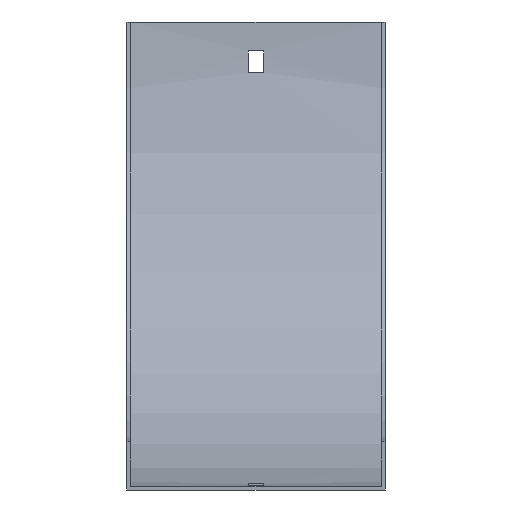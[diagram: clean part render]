
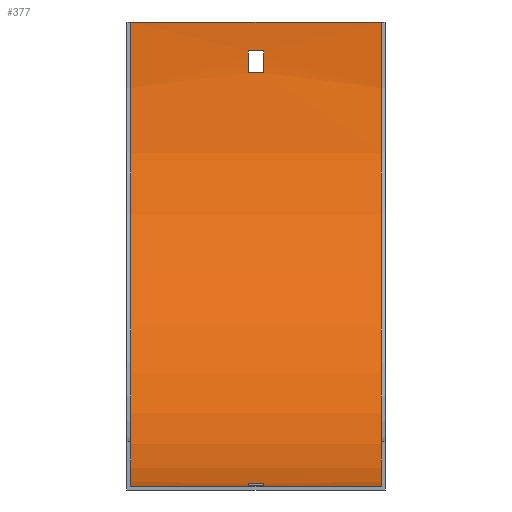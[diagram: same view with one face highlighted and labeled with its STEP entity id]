
A CAD part, front view. The second image highlights one B-rep face of the part: STEP entity #377.
In plain terms, the highlighted cylindrical face has radius 192.5 mm (diameter 385 mm), a partial arc.
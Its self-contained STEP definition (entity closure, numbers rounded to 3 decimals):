
#1 = DIRECTION ( 'NONE',  ( -1., 0., 0. ) ) ;
#2 = CARTESIAN_POINT ( 'NONE',  ( 3.25, -1.874, -12. ) ) ;
#19 = CARTESIAN_POINT ( 'NONE',  ( -52., -194., -192.5 ) ) ;
#20 = VERTEX_POINT ( 'NONE', #39 ) ;
#21 = EDGE_CURVE ( 'NONE', #570, #357, #551, .T. ) ;
#23 = ORIENTED_EDGE ( 'NONE', *, *, #587, .F. ) ;
#29 = CARTESIAN_POINT ( 'NONE',  ( 53.5, -2.649, -21. ) ) ;
#39 = CARTESIAN_POINT ( 'NONE',  ( 3.25, -173., -191.351 ) ) ;
#43 = EDGE_CURVE ( 'NONE', #292, #570, #411, .T. ) ;
#55 = LINE ( 'NONE', #29, #58 ) ;
#58 = VECTOR ( 'NONE', #404, 1000. ) ;
#61 = DIRECTION ( 'NONE',  ( 1., 0., 0. ) ) ;
#65 = DIRECTION ( 'NONE',  ( 1., 0., 0. ) ) ;
#66 = ORIENTED_EDGE ( 'NONE', *, *, #21, .T. ) ;
#67 = CARTESIAN_POINT ( 'NONE',  ( 52., -1.5, 0. ) ) ;
#68 = CARTESIAN_POINT ( 'NONE',  ( 3.25, -182., -192.126 ) ) ;
#76 = DIRECTION ( 'NONE',  ( 0., 0., 1. ) ) ;
#77 = VERTEX_POINT ( 'NONE', #598 ) ;
#107 = VERTEX_POINT ( 'NONE', #19 ) ;
#109 = DIRECTION ( 'NONE',  ( 0., 0., 1. ) ) ;
#110 = AXIS2_PLACEMENT_3D ( 'NONE', #199, #576, #245 ) ;
#122 = CARTESIAN_POINT ( 'NONE',  ( -52., -194., 0. ) ) ;
#125 = DIRECTION ( 'NONE',  ( 0., 0., 1. ) ) ;
#130 = DIRECTION ( 'NONE',  ( -1., 0., 0. ) ) ;
#136 = CARTESIAN_POINT ( 'NONE',  ( -3.25, -173., -191.351 ) ) ;
#139 = ORIENTED_EDGE ( 'NONE', *, *, #479, .T. ) ;
#140 = EDGE_CURVE ( 'NONE', #312, #444, #599, .T. ) ;
#147 = EDGE_CURVE ( 'NONE', #572, #506, #237, .T. ) ;
#155 = CIRCLE ( 'NONE', #331, 192.5 ) ;
#159 = CARTESIAN_POINT ( 'NONE',  ( 52., -194., 0. ) ) ;
#169 = LINE ( 'NONE', #403, #371 ) ;
#181 = EDGE_CURVE ( 'NONE', #550, #77, #155, .T. ) ;
#183 = CARTESIAN_POINT ( 'NONE',  ( -3.25, -194., 0. ) ) ;
#184 = AXIS2_PLACEMENT_3D ( 'NONE', #159, #493, #125 ) ;
#192 = DIRECTION ( 'NONE',  ( -1., 0., 0. ) ) ;
#193 = VECTOR ( 'NONE', #61, 1000. ) ;
#199 = CARTESIAN_POINT ( 'NONE',  ( 3.25, -194., 0. ) ) ;
#204 = AXIS2_PLACEMENT_3D ( 'NONE', #183, #416, #408 ) ;
#205 = EDGE_LOOP ( 'NONE', ( #248, #399, #521, #492 ) ) ;
#222 = AXIS2_PLACEMENT_3D ( 'NONE', #122, #65, #76 ) ;
#231 = EDGE_CURVE ( 'NONE', #77, #312, #55, .T. ) ;
#233 = AXIS2_PLACEMENT_3D ( 'NONE', #555, #130, #319 ) ;
#237 = LINE ( 'NONE', #388, #370 ) ;
#240 = CARTESIAN_POINT ( 'NONE',  ( -3.25, -194., 0. ) ) ;
#245 = DIRECTION ( 'NONE',  ( 0., 0., -1. ) ) ;
#248 = ORIENTED_EDGE ( 'NONE', *, *, #271, .F. ) ;
#249 = LINE ( 'NONE', #342, #431 ) ;
#254 = DIRECTION ( 'NONE',  ( -1., 0., 0. ) ) ;
#256 = CARTESIAN_POINT ( 'NONE',  ( 3.25, -2.649, -21. ) ) ;
#271 = EDGE_CURVE ( 'NONE', #107, #506, #323, .T. ) ;
#277 = EDGE_CURVE ( 'NONE', #281, #572, #453, .T. ) ;
#279 = EDGE_LOOP ( 'NONE', ( #378, #23, #509, #397 ) ) ;
#280 = CARTESIAN_POINT ( 'NONE',  ( -3.25, -1.874, -12. ) ) ;
#281 = VERTEX_POINT ( 'NONE', #309 ) ;
#282 = VECTOR ( 'NONE', #1, 1000. ) ;
#287 = CARTESIAN_POINT ( 'NONE',  ( -52., -1.5, 0. ) ) ;
#292 = VERTEX_POINT ( 'NONE', #68 ) ;
#298 = DIRECTION ( 'NONE',  ( -1., 0., 0. ) ) ;
#304 = AXIS2_PLACEMENT_3D ( 'NONE', #520, #192, #488 ) ;
#309 = CARTESIAN_POINT ( 'NONE',  ( 52., -194., -192.5 ) ) ;
#312 = VERTEX_POINT ( 'NONE', #256 ) ;
#314 = CIRCLE ( 'NONE', #304, 192.5 ) ;
#319 = DIRECTION ( 'NONE',  ( 0., 0., 1. ) ) ;
#321 = FACE_BOUND ( 'NONE', #279, .T. ) ;
#323 = CIRCLE ( 'NONE', #222, 192.5 ) ;
#331 = AXIS2_PLACEMENT_3D ( 'NONE', #240, #382, #109 ) ;
#333 = DIRECTION ( 'NONE',  ( -1., 0., 0. ) ) ;
#342 = CARTESIAN_POINT ( 'NONE',  ( 53.5, -1.874, -12. ) ) ;
#357 = VERTEX_POINT ( 'NONE', #136 ) ;
#363 = FACE_BOUND ( 'NONE', #548, .T. ) ;
#370 = VECTOR ( 'NONE', #333, 1000. ) ;
#371 = VECTOR ( 'NONE', #254, 1000. ) ;
#377 = ADVANCED_FACE ( 'NONE', ( #321, #407, #363 ), #607, .F. ) ;
#378 = ORIENTED_EDGE ( 'NONE', *, *, #181, .F. ) ;
#381 = CARTESIAN_POINT ( 'NONE',  ( 53.5, -173., -191.351 ) ) ;
#382 = DIRECTION ( 'NONE',  ( -1., 0., 0. ) ) ;
#388 = CARTESIAN_POINT ( 'NONE',  ( 52., -1.5, 0. ) ) ;
#397 = ORIENTED_EDGE ( 'NONE', *, *, #231, .F. ) ;
#399 = ORIENTED_EDGE ( 'NONE', *, *, #560, .F. ) ;
#403 = CARTESIAN_POINT ( 'NONE',  ( 52., -194., -192.5 ) ) ;
#404 = DIRECTION ( 'NONE',  ( 1., 0., 0. ) ) ;
#407 = FACE_OUTER_BOUND ( 'NONE', #205, .T. ) ;
#408 = DIRECTION ( 'NONE',  ( 0., 0., -1. ) ) ;
#411 = LINE ( 'NONE', #603, #282 ) ;
#416 = DIRECTION ( 'NONE',  ( 1., 0., 0. ) ) ;
#431 = VECTOR ( 'NONE', #298, 1000. ) ;
#444 = VERTEX_POINT ( 'NONE', #2 ) ;
#449 = CARTESIAN_POINT ( 'NONE',  ( -3.25, -182., -192.126 ) ) ;
#453 = CIRCLE ( 'NONE', #184, 192.5 ) ;
#471 = ORIENTED_EDGE ( 'NONE', *, *, #43, .T. ) ;
#475 = LINE ( 'NONE', #381, #193 ) ;
#479 = EDGE_CURVE ( 'NONE', #20, #292, #314, .T. ) ;
#485 = ORIENTED_EDGE ( 'NONE', *, *, #497, .T. ) ;
#488 = DIRECTION ( 'NONE',  ( 0., 0., 1. ) ) ;
#492 = ORIENTED_EDGE ( 'NONE', *, *, #147, .T. ) ;
#493 = DIRECTION ( 'NONE',  ( 1., 0., 0. ) ) ;
#497 = EDGE_CURVE ( 'NONE', #357, #20, #475, .T. ) ;
#506 = VERTEX_POINT ( 'NONE', #287 ) ;
#509 = ORIENTED_EDGE ( 'NONE', *, *, #140, .F. ) ;
#520 = CARTESIAN_POINT ( 'NONE',  ( 3.25, -194., 0. ) ) ;
#521 = ORIENTED_EDGE ( 'NONE', *, *, #277, .T. ) ;
#548 = EDGE_LOOP ( 'NONE', ( #471, #66, #485, #139 ) ) ;
#550 = VERTEX_POINT ( 'NONE', #280 ) ;
#551 = CIRCLE ( 'NONE', #204, 192.5 ) ;
#555 = CARTESIAN_POINT ( 'NONE',  ( 53.5, -194., 0. ) ) ;
#560 = EDGE_CURVE ( 'NONE', #281, #107, #169, .T. ) ;
#570 = VERTEX_POINT ( 'NONE', #449 ) ;
#572 = VERTEX_POINT ( 'NONE', #67 ) ;
#576 = DIRECTION ( 'NONE',  ( 1., 0., 0. ) ) ;
#587 = EDGE_CURVE ( 'NONE', #444, #550, #249, .T. ) ;
#598 = CARTESIAN_POINT ( 'NONE',  ( -3.25, -2.649, -21. ) ) ;
#599 = CIRCLE ( 'NONE', #110, 192.5 ) ;
#603 = CARTESIAN_POINT ( 'NONE',  ( 53.5, -182., -192.126 ) ) ;
#607 = CYLINDRICAL_SURFACE ( 'NONE', #233, 192.5 ) ;
